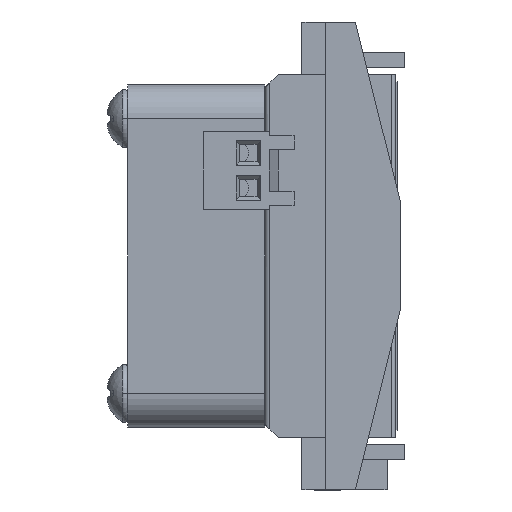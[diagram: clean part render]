
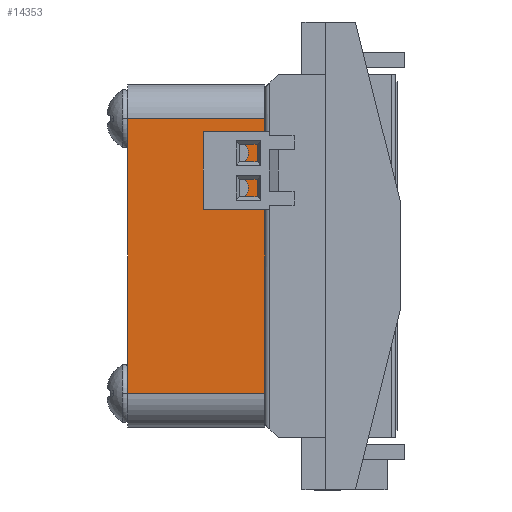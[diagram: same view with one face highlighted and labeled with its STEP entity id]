
A CAD part, left-side view. The second image highlights one B-rep face of the part: STEP entity #14353.
In plain terms, the highlighted planar face has unit normal (-1, 0, 0).
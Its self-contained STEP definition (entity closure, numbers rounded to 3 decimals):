
#587 = EDGE_LOOP ( 'NONE', ( #25175, #36984 ) ) ;
#687 = EDGE_CURVE ( 'NONE', #42108, #13159, #45131, .T. ) ;
#885 = DIRECTION ( 'NONE',  ( 1., 0., 0. ) ) ;
#894 = ORIENTED_EDGE ( 'NONE', *, *, #37224, .F. ) ;
#1425 = EDGE_LOOP ( 'NONE', ( #7326, #894 ) ) ;
#3223 = VERTEX_POINT ( 'NONE', #63067 ) ;
#3332 = ORIENTED_EDGE ( 'NONE', *, *, #40821, .F. ) ;
#5002 = DIRECTION ( 'NONE',  ( 0., 0., -1. ) ) ;
#5559 = AXIS2_PLACEMENT_3D ( 'NONE', #35413, #14221, #67228 ) ;
#6400 = VECTOR ( 'NONE', #38783, 1000. ) ;
#6488 = CARTESIAN_POINT ( 'NONE',  ( -12.5, 19.5, -10. ) ) ;
#7326 = ORIENTED_EDGE ( 'NONE', *, *, #52991, .F. ) ;
#8332 = LINE ( 'NONE', #34334, #6400 ) ;
#10667 = EDGE_CURVE ( 'NONE', #3223, #48254, #8332, .T. ) ;
#12360 = EDGE_CURVE ( 'NONE', #13159, #42108, #36059, .T. ) ;
#13159 = VERTEX_POINT ( 'NONE', #22732 ) ;
#14221 = DIRECTION ( 'NONE',  ( -1., 0., 0. ) ) ;
#14353 = ADVANCED_FACE ( 'NONE', ( #41615, #15289, #58019 ), #41285, .F. ) ;
#14488 = CARTESIAN_POINT ( 'NONE',  ( -12.5, 11.5, 7.5 ) ) ;
#14569 = CARTESIAN_POINT ( 'NONE',  ( -12.5, 9.5, -10. ) ) ;
#15289 = FACE_BOUND ( 'NONE', #587, .T. ) ;
#16407 = LINE ( 'NONE', #6488, #61847 ) ;
#17236 = EDGE_LOOP ( 'NONE', ( #44947, #3332, #32871, #47497 ) ) ;
#18335 = DIRECTION ( 'NONE',  ( 0., -1., 0. ) ) ;
#18677 = CARTESIAN_POINT ( 'NONE',  ( -12.5, 19.5, 10. ) ) ;
#20082 = CARTESIAN_POINT ( 'NONE',  ( -12.5, 9.5, -10. ) ) ;
#22732 = CARTESIAN_POINT ( 'NONE',  ( -12.5, 11.5, 6.738 ) ) ;
#23418 = VECTOR ( 'NONE', #18335, 1000. ) ;
#24288 = CIRCLE ( 'NONE', #51572, 0.762 ) ;
#25175 = ORIENTED_EDGE ( 'NONE', *, *, #12360, .F. ) ;
#25333 = CARTESIAN_POINT ( 'NONE',  ( -12.5, 11.5, 4.96 ) ) ;
#27336 = DIRECTION ( 'NONE',  ( 0., -1., 0. ) ) ;
#29145 = AXIS2_PLACEMENT_3D ( 'NONE', #59315, #34342, #34673 ) ;
#30212 = CIRCLE ( 'NONE', #29145, 0.762 ) ;
#30793 = DIRECTION ( 'NONE',  ( -1., 0., 0. ) ) ;
#32871 = ORIENTED_EDGE ( 'NONE', *, *, #10667, .F. ) ;
#34334 = CARTESIAN_POINT ( 'NONE',  ( -12.5, 19.5, -10. ) ) ;
#34342 = DIRECTION ( 'NONE',  ( -1., 0., 0. ) ) ;
#34673 = DIRECTION ( 'NONE',  ( 0., 0., -1. ) ) ;
#35336 = DIRECTION ( 'NONE',  ( 0., 0., -1. ) ) ;
#35413 = CARTESIAN_POINT ( 'NONE',  ( -12.5, 11.5, 7.5 ) ) ;
#35461 = DIRECTION ( 'NONE',  ( 0., 0., 1. ) ) ;
#35897 = DIRECTION ( 'NONE',  ( 0., 0., -1. ) ) ;
#36059 = CIRCLE ( 'NONE', #5559, 0.762 ) ;
#36343 = VERTEX_POINT ( 'NONE', #56611 ) ;
#36464 = CARTESIAN_POINT ( 'NONE',  ( -12.5, 19.5, -10. ) ) ;
#36910 = VECTOR ( 'NONE', #35461, 1000. ) ;
#36984 = ORIENTED_EDGE ( 'NONE', *, *, #687, .F. ) ;
#37224 = EDGE_CURVE ( 'NONE', #49168, #36343, #30212, .T. ) ;
#38783 = DIRECTION ( 'NONE',  ( 0., 0., 1. ) ) ;
#39196 = LINE ( 'NONE', #18677, #23418 ) ;
#40821 = EDGE_CURVE ( 'NONE', #48254, #44728, #39196, .T. ) ;
#41285 = PLANE ( 'NONE',  #52733 ) ;
#41615 = FACE_OUTER_BOUND ( 'NONE', #17236, .T. ) ;
#42108 = VERTEX_POINT ( 'NONE', #67386 ) ;
#43932 = EDGE_CURVE ( 'NONE', #3223, #67229, #16407, .T. ) ;
#44728 = VERTEX_POINT ( 'NONE', #53191 ) ;
#44947 = ORIENTED_EDGE ( 'NONE', *, *, #47419, .T. ) ;
#45131 = CIRCLE ( 'NONE', #51742, 0.762 ) ;
#45532 = CARTESIAN_POINT ( 'NONE',  ( -12.5, 11.5, 5.722 ) ) ;
#47419 = EDGE_CURVE ( 'NONE', #67229, #44728, #61146, .T. ) ;
#47497 = ORIENTED_EDGE ( 'NONE', *, *, #43932, .T. ) ;
#48254 = VERTEX_POINT ( 'NONE', #52324 ) ;
#49168 = VERTEX_POINT ( 'NONE', #45532 ) ;
#51572 = AXIS2_PLACEMENT_3D ( 'NONE', #25333, #30793, #35897 ) ;
#51742 = AXIS2_PLACEMENT_3D ( 'NONE', #14488, #65478, #35336 ) ;
#52324 = CARTESIAN_POINT ( 'NONE',  ( -12.5, 19.5, 10. ) ) ;
#52733 = AXIS2_PLACEMENT_3D ( 'NONE', #36464, #885, #5002 ) ;
#52991 = EDGE_CURVE ( 'NONE', #36343, #49168, #24288, .T. ) ;
#53191 = CARTESIAN_POINT ( 'NONE',  ( -12.5, 9.5, 10. ) ) ;
#56611 = CARTESIAN_POINT ( 'NONE',  ( -12.5, 11.5, 4.198 ) ) ;
#58019 = FACE_BOUND ( 'NONE', #1425, .T. ) ;
#59315 = CARTESIAN_POINT ( 'NONE',  ( -12.5, 11.5, 4.96 ) ) ;
#61146 = LINE ( 'NONE', #20082, #36910 ) ;
#61847 = VECTOR ( 'NONE', #27336, 1000. ) ;
#63067 = CARTESIAN_POINT ( 'NONE',  ( -12.5, 19.5, -10. ) ) ;
#65478 = DIRECTION ( 'NONE',  ( -1., 0., 0. ) ) ;
#67228 = DIRECTION ( 'NONE',  ( 0., 0., -1. ) ) ;
#67229 = VERTEX_POINT ( 'NONE', #14569 ) ;
#67386 = CARTESIAN_POINT ( 'NONE',  ( -12.5, 11.5, 8.262 ) ) ;
